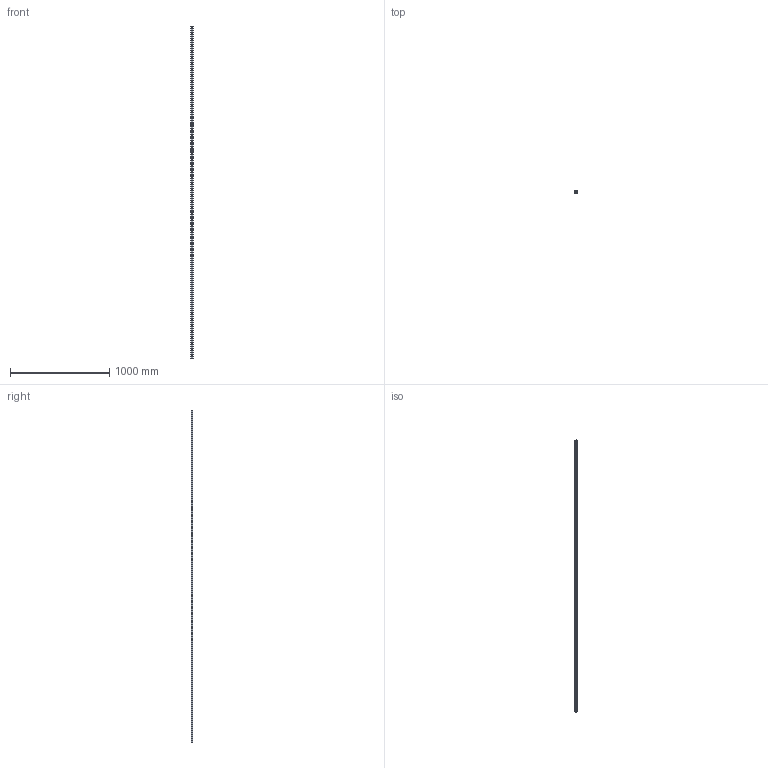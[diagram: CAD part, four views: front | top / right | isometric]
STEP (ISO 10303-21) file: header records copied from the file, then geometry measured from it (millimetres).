
FILE_DESCRIPTION (( 'STEP AP203' ), '1' );
FILE_NAME ('L1016.BRF25-3340.step', '2019-06-13T08:46:21', ( '' ), ( '' ), 'SwSTEP 2.0', 'SolidWorks 2017', '' );
FILE_SCHEMA (( 'CONFIG_CONTROL_DESIGN' ));
Length unit declared in the file: millimetre
Products named in the file (1): L1016.BRF25-3340
Bounding box: 23 x 19.2 x 3340 mm (x, y, z)
Volume: 1275243.5 mm3; surface area: 307247.2 mm2
Topology: 1 solids, 1 shells, 418 faces, 968 edges, 552 vertices
Faces by surface type: cylinder 228, cone 112, plane 78
Entity records: 11205 total; most frequent: DIRECTION 2150, CARTESIAN_POINT 1827, ORIENTED_EDGE 1712, AXIS2_PLACEMENT_3D 875, EDGE_CURVE 856, VERTEX_POINT 552, EDGE_LOOP 530, CIRCLE 456
